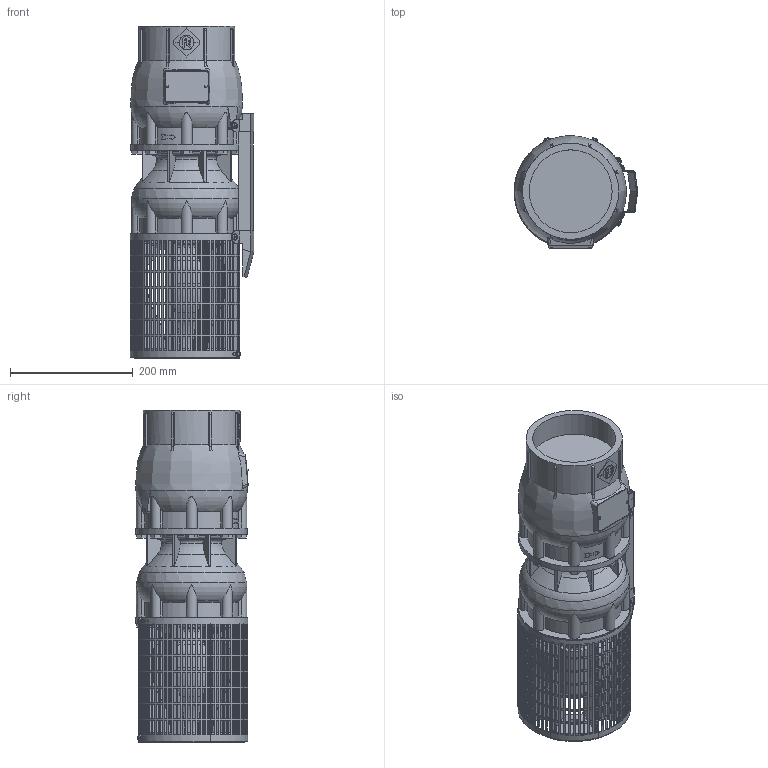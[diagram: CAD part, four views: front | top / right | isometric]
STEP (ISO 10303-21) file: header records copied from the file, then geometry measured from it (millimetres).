
FILE_DESCRIPTION(/* description */ ('Unknown'),/* implementation_level */ '2;1');
FILE_NAME(/* name */ 'VSI134-1_WR_M6-50_DLE',/* time_stamp */ '2023-09-14T13:19:24+02:00',/* author */ ('Unknown'),/* organization */ ('Unknown'),/* preprocessor_version */ 'ST-DEVELOPER v18.102',/* originating_system */ 'Solid Edge',/* authorisation */ 'Unknown');
FILE_SCHEMA (('INTEGRATED_CNC_SCHEMA','AUTOMOTIVE_DESIGN {1 0 10303 214 3 1 1}'));
Products named in the file (11): VSI134-1_WR_M6-50_DLE; VSI134_testata; VSI134_diffusore; VSI134_supporto_8×6; VSI134_filtro_A; VSI134_filtro_B; VSI134_terminale_top_copricavo_basso; VSI134_terminale_bottom_copricavo_basso; LOW 134-1; M5X8_UNI7687; VSI134_giunto_8×6
Assembly tree (19 placements, depth 2):
  VSI134-1_WR_M6-50_DLE
    VSI134_testata
    VSI134_diffusore
    VSI134_supporto_8×6
    VSI134_filtro_A
    VSI134_filtro_B
    VSI134_terminale_top_copricavo_basso
    VSI134_terminale_bottom_copricavo_basso
    LOW 134-1
    M5X8_UNI7687  x10
    VSI134_giunto_8×6
Bounding box: 201.57 x 183.52 x 542 mm (x, y, z)
Volume: 7771546.5 mm3; surface area: 813008.2 mm2
Topology: 58 solids, 60 shells, 2674 faces, 7548 edges, 5026 vertices
Faces by surface type: plane 2112, cylinder 371, torus 97, cone 51, bspline 31, sphere 12
Full cylindrical faces by diameter (mm): 2.4 x2, 3 x2, 4.2 x16, 5 x10, 5.5 x8, 15 x4, 26 x1, 44 x1, 59 x1, 74 x1, 76.2 x1, 98 x1, 135.472 x1, 157 x1, 182 x2
Entity records: 83701 total; most frequent: CARTESIAN_POINT 18039, ORIENTED_EDGE 13738, DIRECTION 13160, EDGE_CURVE 6869, VERTEX_POINT 4627, AXIS2_PLACEMENT_3D 4487, LINE 4186, VECTOR 4186
